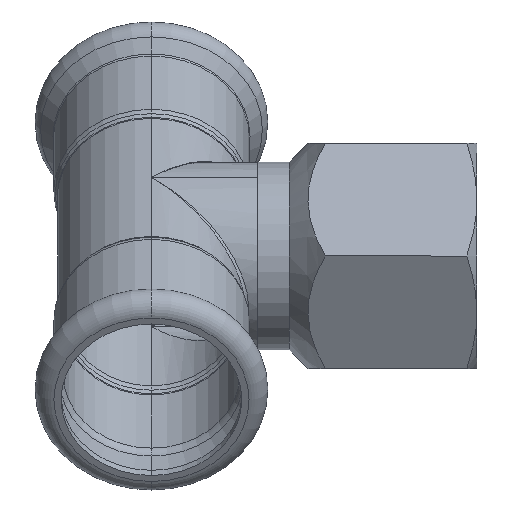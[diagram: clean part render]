
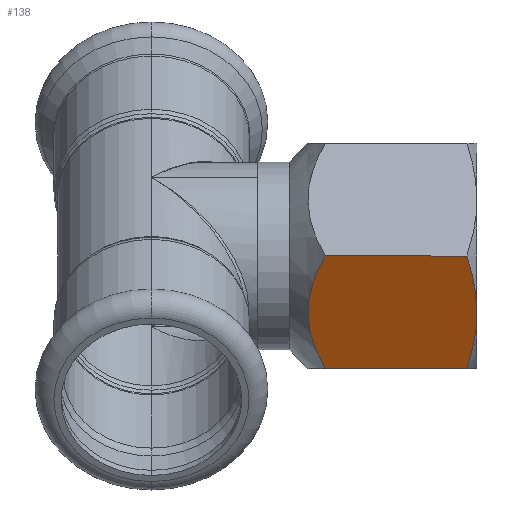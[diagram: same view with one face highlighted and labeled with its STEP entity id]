
A CAD part, left-side view. The second image highlights one B-rep face of the part: STEP entity #138.
In plain terms, the highlighted planar face has unit normal (-0.866, 0, -0.5).
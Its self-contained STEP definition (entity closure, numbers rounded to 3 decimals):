
#3 = B_SPLINE_CURVE_WITH_KNOTS ( 'NONE', 3,
 ( #1306, #190, #3402, #2076, #2133, #797 ),
 .UNSPECIFIED., .F., .F.,
 ( 4, 2, 4 ),
 ( 0., 0.005, 0.011 ),
 .UNSPECIFIED. ) ;
#137 = CARTESIAN_POINT ( 'NONE',  ( -13.325, 26.458, -12.921 ) ) ;
#138 = ADVANCED_FACE ( 'NONE', ( #1179 ), #1523, .F. ) ;
#143 = CARTESIAN_POINT ( 'NONE',  ( -20.785, 1.608, 0. ) ) ;
#150 = CARTESIAN_POINT ( 'NONE',  ( -17.368, 26.729, -5.917 ) ) ;
#190 = CARTESIAN_POINT ( 'NONE',  ( -11.242, 1.117, -16.528 ) ) ;
#207 = VERTEX_POINT ( 'NONE', #501 ) ;
#290 = CARTESIAN_POINT ( 'NONE',  ( -16.031, 0.009, -8.234 ) ) ;
#308 = VERTEX_POINT ( 'NONE', #2618 ) ;
#413 = CARTESIAN_POINT ( 'NONE',  ( -14.658, 26.91, -10.612 ) ) ;
#431 = DIRECTION ( 'NONE',  ( 0.5, 0., -0.866 ) ) ;
#501 = CARTESIAN_POINT ( 'NONE',  ( -10.392, 24.215, -18. ) ) ;
#512 = B_SPLINE_CURVE_WITH_KNOTS ( 'NONE', 3,
 ( #3229, #1901, #290, #1914, #2178, #1877, #2162, #2174, #1140, #143 ),
 .UNSPECIFIED., .F., .F.,
 ( 4, 2, 2, 2, 4 ),
 ( 0.011, 0.012, 0.013, 0.016, 0.021 ),
 .UNSPECIFIED. ) ;
#523 = ORIENTED_EDGE ( 'NONE', *, *, #817, .T. ) ;
#584 = EDGE_CURVE ( 'NONE', #207, #2204, #1822, .T. ) ;
#650 = CARTESIAN_POINT ( 'NONE',  ( -11.204, 25.027, -16.594 ) ) ;
#715 = VERTEX_POINT ( 'NONE', #1530 ) ;
#797 = CARTESIAN_POINT ( 'NONE',  ( -15.588, 0., -9. ) ) ;
#817 = EDGE_CURVE ( 'NONE', #308, #2681, #3, .T. ) ;
#833 = EDGE_CURVE ( 'NONE', #207, #308, #1088, .T. ) ;
#948 = CARTESIAN_POINT ( 'NONE',  ( -10.392, 24.215, -18. ) ) ;
#949 = CARTESIAN_POINT ( 'NONE',  ( -20.785, 24.215, 0. ) ) ;
#962 = CARTESIAN_POINT ( 'NONE',  ( -19.968, 25.032, -1.415 ) ) ;
#1006 = EDGE_CURVE ( 'NONE', #2681, #715, #512, .T. ) ;
#1088 = LINE ( 'NONE', #1279, #2829 ) ;
#1140 = CARTESIAN_POINT ( 'NONE',  ( -19.937, 1.118, -1.469 ) ) ;
#1179 = FACE_OUTER_BOUND ( 'NONE', #1485, .T. ) ;
#1192 = CARTESIAN_POINT ( 'NONE',  ( -13.762, 26.654, -12.163 ) ) ;
#1221 = EDGE_CURVE ( 'NONE', #2204, #715, #2673, .T. ) ;
#1279 = CARTESIAN_POINT ( 'NONE',  ( -10.392, 35., -18. ) ) ;
#1306 = CARTESIAN_POINT ( 'NONE',  ( -10.392, 1.608, -18. ) ) ;
#1332 = DIRECTION ( 'NONE',  ( 0., -1., 0. ) ) ;
#1466 = ORIENTED_EDGE ( 'NONE', *, *, #1221, .F. ) ;
#1472 = CARTESIAN_POINT ( 'NONE',  ( -12.035, 25.718, -15.156 ) ) ;
#1485 = EDGE_LOOP ( 'NONE', ( #3098, #523, #2650, #1466, #2008 ) ) ;
#1523 = PLANE ( 'NONE',  #1767 ) ;
#1530 = CARTESIAN_POINT ( 'NONE',  ( -20.785, 1.608, 0. ) ) ;
#1730 = CARTESIAN_POINT ( 'NONE',  ( -14.432, 26.857, -11.003 ) ) ;
#1767 = AXIS2_PLACEMENT_3D ( 'NONE', #2044, #2057, #431 ) ;
#1822 = B_SPLINE_CURVE_WITH_KNOTS ( 'NONE', 3,
 ( #948, #650, #1472, #137, #1192, #1730, #413, #2800, #1994, #2251, #150, #2562, #962, #2549 ),
 .UNSPECIFIED., .F., .F.,
 ( 4, 2, 2, 2, 2, 2, 4 ),
 ( 0., 0.005, 0.008, 0.009, 0.011, 0.016, 0.021 ),
 .UNSPECIFIED. ) ;
#1877 = CARTESIAN_POINT ( 'NONE',  ( -17.349, 0.185, -5.951 ) ) ;
#1901 = CARTESIAN_POINT ( 'NONE',  ( -15.809, 0., -8.618 ) ) ;
#1914 = CARTESIAN_POINT ( 'NONE',  ( -16.472, 0.047, -7.47 ) ) ;
#1947 = CARTESIAN_POINT ( 'NONE',  ( -15.588, 0., -9. ) ) ;
#1994 = CARTESIAN_POINT ( 'NONE',  ( -15.343, 26.999, -9.426 ) ) ;
#2008 = ORIENTED_EDGE ( 'NONE', *, *, #584, .F. ) ;
#2044 = CARTESIAN_POINT ( 'NONE',  ( -10.392, 35., -18. ) ) ;
#2057 = DIRECTION ( 'NONE',  ( 0.866, 0., 0.5 ) ) ;
#2076 = CARTESIAN_POINT ( 'NONE',  ( -13.829, 0.153, -12.048 ) ) ;
#2133 = CARTESIAN_POINT ( 'NONE',  ( -14.703, 0., -10.533 ) ) ;
#2162 = CARTESIAN_POINT ( 'NONE',  ( -17.784, 0.294, -5.197 ) ) ;
#2174 = CARTESIAN_POINT ( 'NONE',  ( -19.082, 0.714, -2.949 ) ) ;
#2178 = CARTESIAN_POINT ( 'NONE',  ( -16.691, 0.075, -7.09 ) ) ;
#2204 = VERTEX_POINT ( 'NONE', #949 ) ;
#2251 = CARTESIAN_POINT ( 'NONE',  ( -16.477, 27.004, -7.462 ) ) ;
#2549 = CARTESIAN_POINT ( 'NONE',  ( -20.785, 24.215, 0. ) ) ;
#2562 = CARTESIAN_POINT ( 'NONE',  ( -19.127, 25.732, -2.871 ) ) ;
#2618 = CARTESIAN_POINT ( 'NONE',  ( -10.392, 1.608, -18. ) ) ;
#2650 = ORIENTED_EDGE ( 'NONE', *, *, #1006, .T. ) ;
#2659 = DIRECTION ( 'NONE',  ( 0., -1., 0. ) ) ;
#2673 = LINE ( 'NONE', #2912, #3177 ) ;
#2681 = VERTEX_POINT ( 'NONE', #1947 ) ;
#2800 = CARTESIAN_POINT ( 'NONE',  ( -15.114, 26.981, -9.821 ) ) ;
#2829 = VECTOR ( 'NONE', #2659, 1000. ) ;
#2912 = CARTESIAN_POINT ( 'NONE',  ( -20.785, 35., 0. ) ) ;
#3098 = ORIENTED_EDGE ( 'NONE', *, *, #833, .T. ) ;
#3177 = VECTOR ( 'NONE', #1332, 1000. ) ;
#3229 = CARTESIAN_POINT ( 'NONE',  ( -15.588, 0., -9. ) ) ;
#3402 = CARTESIAN_POINT ( 'NONE',  ( -12.099, 0.713, -15.045 ) ) ;
